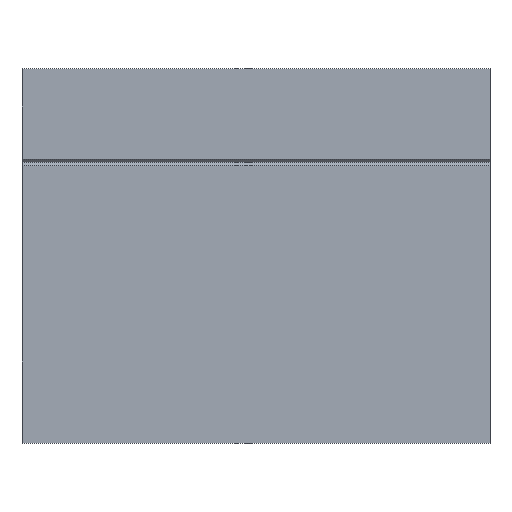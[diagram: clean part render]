
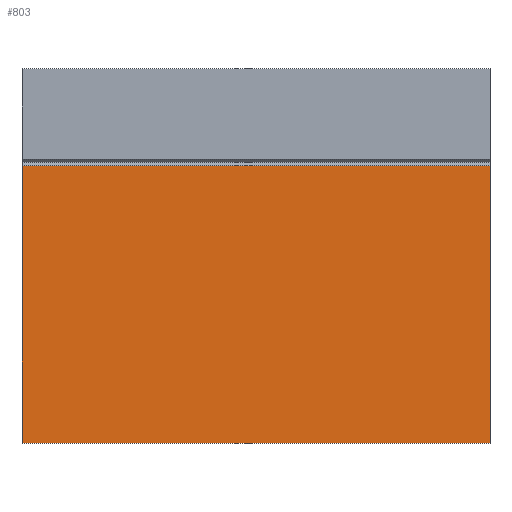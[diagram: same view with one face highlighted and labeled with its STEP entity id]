
A CAD part, left-side view. The second image highlights one B-rep face of the part: STEP entity #803.
In plain terms, the highlighted planar face has unit normal (-1, 0, 0).
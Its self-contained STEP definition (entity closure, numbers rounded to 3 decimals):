
#47=LINE('',#1185,#144);
#61=LINE('',#1215,#158);
#79=LINE('',#1254,#176);
#102=LINE('',#1311,#199);
#144=VECTOR('',#948,1000.);
#158=VECTOR('',#966,1000.);
#176=VECTOR('',#994,1000.);
#199=VECTOR('',#1043,1000.);
#330=ORIENTED_EDGE('',*,*,#550,.F.);
#331=ORIENTED_EDGE('',*,*,#484,.F.);
#332=ORIENTED_EDGE('',*,*,#499,.F.);
#333=ORIENTED_EDGE('',*,*,#519,.T.);
#484=EDGE_CURVE('',#601,#602,#47,.T.);
#499=EDGE_CURVE('',#615,#601,#61,.T.);
#519=EDGE_CURVE('',#615,#631,#79,.T.);
#550=EDGE_CURVE('',#602,#631,#102,.T.);
#601=VERTEX_POINT('',#1184);
#602=VERTEX_POINT('',#1186);
#615=VERTEX_POINT('',#1214);
#631=VERTEX_POINT('',#1253);
#686=EDGE_LOOP('',(#330,#331,#332,#333));
#731=FACE_BOUND('',#686,.T.);
#772=PLANE('',#877);
#803=ADVANCED_FACE('',(#731),#772,.T.);
#877=AXIS2_PLACEMENT_3D('',#1310,#1041,#1042);
#948=DIRECTION('',(0.,0.,1.));
#966=DIRECTION('',(0.,1.,0.));
#994=DIRECTION('',(0.,0.,1.));
#1041=DIRECTION('',(-1.,0.,0.));
#1042=DIRECTION('',(0.,0.,1.));
#1043=DIRECTION('',(0.,-1.,0.));
#1184=CARTESIAN_POINT('',(0.,37.5,0.));
#1185=CARTESIAN_POINT('',(0.,37.5,0.));
#1186=CARTESIAN_POINT('',(0.,37.5,44.5));
#1214=CARTESIAN_POINT('',(0.,-37.5,0.));
#1215=CARTESIAN_POINT('',(0.,-37.5,0.));
#1253=CARTESIAN_POINT('',(0.,-37.5,44.5));
#1254=CARTESIAN_POINT('',(0.,-37.5,0.));
#1310=CARTESIAN_POINT('',(0.,-37.5,0.));
#1311=CARTESIAN_POINT('',(0.,-37.5,44.5));
